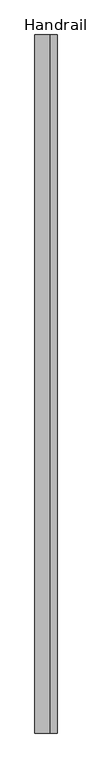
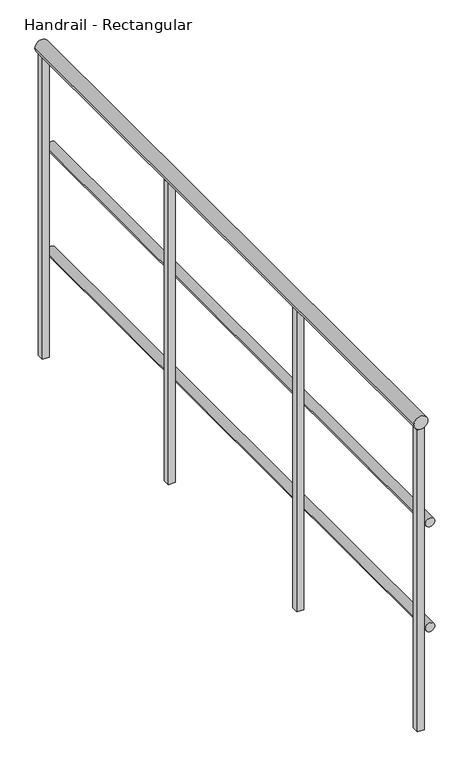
"""IFC4 building model written with IfcOpenShell, lengths in millimetres: railing geometry, Handrail - Rectangular."""

import ifcopenshell
import ifcopenshell.guid

model = None  # the IFC model being written
_history = None  # IfcOwnerHistory: only IFC2X3 demands one
_inside = {}  # id of a spatial element -> (the spatial element, [elements in it])
_under = {}  # id of a project, library or spatial element -> (it, [spatial elements below it])
_declared = {}  # id of a project -> (the project, [libraries it declares])
_typed = {}  # id of a type object -> (the type object, [elements of that type])
_made_of = {}  # id of a material, layer set ... -> (it, [elements and type objects made of it])


def new_model(schema):
    """Start an empty IFC model of exactly this schema.

    Asked for "IFC4X3", IfcOpenShell would pick the latest addendum, in which some entities
    have other attributes; the version numbers below select the first issue.
    IFC2X3 requires an IfcOwnerHistory on every rooted entity: one is made here for all.
    """
    global model, _history
    if schema == "IFC4X3":
        model = ifcopenshell.file(schema_version=(4, 3, 0, 0))
    else:
        model = ifcopenshell.file(schema=schema)
    _inside.clear()
    _under.clear()
    _declared.clear()
    _typed.clear()
    _made_of.clear()
    _history = None
    if model.schema == "IFC2X3":
        org = make("IfcOrganization", Name="unknown")
        user = make(
            "IfcPersonAndOrganization",
            ThePerson=make("IfcPerson", FamilyName="unknown"),
            TheOrganization=org,
        )
        app = make(
            "IfcApplication",
            ApplicationDeveloper=org,
            Version="unknown",
            ApplicationFullName="unknown",
            ApplicationIdentifier="unknown",
        )
        _history = make(
            "IfcOwnerHistory",
            OwningUser=user,
            OwningApplication=app,
            ChangeAction="ADDED",
            CreationDate=0,
        )
    return model


def make(cls, **values):
    """One entity of the class cls with the attributes given. An attribute that is None is left unset."""
    return model.create_entity(
        cls, **{name: value for name, value in values.items() if value is not None}
    )


def rooted(cls, **values):
    """An entity with a GlobalId (a new one), such as an element, a storey or a relation."""
    return make(cls, GlobalId=ifcopenshell.guid.new(), OwnerHistory=_history, **values)


def si_unit(unit_type, name, prefix=None):
    """IfcSIUnit, for example si_unit("LENGTHUNIT", "METRE", prefix="MILLI")."""
    return make("IfcSIUnit", UnitType=unit_type, Prefix=prefix, Name=name)


def assignment(units):
    """IfcUnitAssignment: the units of a project."""
    return None if units is None else make("IfcUnitAssignment", Units=units)


def point(xyz):
    """IfcCartesianPoint."""
    return None if xyz is None else make("IfcCartesianPoint", Coordinates=xyz)


def direction(xyz):
    """IfcDirection."""
    return None if xyz is None else make("IfcDirection", DirectionRatios=xyz)


def frame(location, z_axis=None, x_axis=None):
    """IfcAxis2Placement3D, a coordinate frame: its origin and axes. An axis left out is left unset."""
    return make(
        "IfcAxis2Placement3D",
        Location=point(location),
        Axis=direction(z_axis),
        RefDirection=direction(x_axis),
    )


def frame_2d(location, x_axis=None):
    """IfcAxis2Placement2D, a coordinate frame in the plane: its origin and x axis."""
    return make(
        "IfcAxis2Placement2D", Location=point(location), RefDirection=direction(x_axis)
    )


def origin():
    """The frame at (0, 0, 0) with its axes left unset."""
    return frame((0.0, 0.0, 0.0))


def place(relative_to, where):
    """IfcLocalPlacement: puts the frame where relative to a parent placement (None: the world)."""
    return make(
        "IfcLocalPlacement", PlacementRelTo=relative_to, RelativePlacement=where
    )


def context(
    kind, dimensions, precision=None, world=None, true_north=None, identifier=None
):
    """IfcGeometricRepresentationContext, for example the 3D "Model" context."""
    return make(
        "IfcGeometricRepresentationContext",
        ContextIdentifier=identifier,
        ContextType=kind,
        CoordinateSpaceDimension=dimensions,
        Precision=precision,
        WorldCoordinateSystem=world,
        TrueNorth=true_north,
    )


def project(units=None, contexts=None):
    """IfcProject with its units and contexts."""
    return rooted(
        "IfcProject",
        Name="project",
        RepresentationContexts=contexts,
        UnitsInContext=assignment(units),
    )


def spatial(cls, under=None, at=None, **own):
    """A site, building, storey or space (cls), placed at a placement, below another one or the project."""
    s = rooted(cls, ObjectPlacement=at, **own)
    if under is not None:
        _under.setdefault(under.id(), (under, []))[1].append(s)
    return s


def polyline(points):
    """IfcPolyline through the points."""
    return make("IfcPolyline", Points=[point(p) for p in points])


def circle_curve(where, radius):
    """IfcCircle in the frame where."""
    return make("IfcCircle", Position=where, Radius=radius)


def trimmed(basis, trim1, trim2, sense, master):
    """IfcTrimmedCurve: the piece of a basis curve between two trims."""
    return make(
        "IfcTrimmedCurve",
        BasisCurve=basis,
        Trim1=trim1,
        Trim2=trim2,
        SenseAgreement=sense,
        MasterRepresentation=master,
    )


def segment(curve, same_sense, transition):
    """IfcCompositeCurveSegment."""
    return make(
        "IfcCompositeCurveSegment",
        Transition=transition,
        SameSense=same_sense,
        ParentCurve=curve,
    )


def composite_curve(segments, self_intersect=None):
    """IfcCompositeCurve: segments joined end to end."""
    return make("IfcCompositeCurve", Segments=segments, SelfIntersect=self_intersect)


def outline(outer, holes=None, kind="AREA"):
    """IfcArbitraryClosedProfileDef: a profile drawn as a closed curve; with holes, ...WithVoids."""
    if holes is None:
        return make("IfcArbitraryClosedProfileDef", ProfileType=kind, OuterCurve=outer)
    return make(
        "IfcArbitraryProfileDefWithVoids",
        ProfileType=kind,
        OuterCurve=outer,
        InnerCurves=holes,
    )


def extrude(swept, where, along, depth):
    """IfcExtrudedAreaSolid: the profile swept, set in the frame where, extruded along a direction by depth."""
    return make(
        "IfcExtrudedAreaSolid",
        SweptArea=swept,
        Position=where,
        ExtrudedDirection=direction(along),
        Depth=depth,
    )


def shape(context_of_items, identifier, shape_type, items):
    """IfcShapeRepresentation: the items that make up one representation, for example the "Body"."""
    return make(
        "IfcShapeRepresentation",
        ContextOfItems=context_of_items,
        RepresentationIdentifier=identifier,
        RepresentationType=shape_type,
        Items=items,
    )


def source(mapping_origin, context_of_items, identifier, shape_type, items):
    """IfcRepresentationMap: a shape defined once, which mapped items show again and again."""
    return make(
        "IfcRepresentationMap",
        MappingOrigin=mapping_origin,
        MappedRepresentation=shape(context_of_items, identifier, shape_type, items),
    )


def transform(
    local_origin,
    x_axis=None,
    y_axis=None,
    z_axis=None,
    scale=None,
    scale2=None,
    scale3=None,
    uniform=True,
):
    """IfcCartesianTransformationOperator3D, or its non-uniform kind. x_axis, y_axis, z_axis: its Axis1, 2, 3."""
    if uniform:
        return make(
            "IfcCartesianTransformationOperator3D",
            Axis1=direction(x_axis),
            Axis2=direction(y_axis),
            LocalOrigin=point(local_origin),
            Scale=scale,
            Axis3=direction(z_axis),
        )
    return make(
        "IfcCartesianTransformationOperator3DnonUniform",
        Axis1=direction(x_axis),
        Axis2=direction(y_axis),
        LocalOrigin=point(local_origin),
        Scale=scale,
        Axis3=direction(z_axis),
        Scale2=scale2,
        Scale3=scale3,
    )


def mapped(mapping_source, mapping_target):
    """IfcMappedItem: shows the shape of a source again, moved by a transform."""
    return make(
        "IfcMappedItem", MappingSource=mapping_source, MappingTarget=mapping_target
    )


def made_of(thing, what):
    """Note that an element or type object is made of a material, layer set ...; save() writes the relation."""
    if what is not None:
        _made_of.setdefault(what.id(), (what, []))[1].append(thing)
    return thing


def element(
    cls,
    number,
    at=None,
    inside=None,
    cuts=None,
    type_object=None,
    material=None,
    context=None,
    identifier="Body",
    shape_type=None,
    held_by="IfcProductDefinitionShape",
    body=None,
    shapes=None,
    **own,
):
    """One element of the class cls, such as IfcWall. Its Tag is "e" and its number.

    at: its placement. inside: the storey or other place that contains it. cuts: it is an
    opening in that element (IfcRelVoidsElement). A single representation is given by context,
    identifier, shape_type and body (its items); several are given by shapes. held_by: the class
    of the entity that holds the representations. save() writes the other relations.
    """
    e = rooted(cls, Tag="e%d" % number, ObjectPlacement=at, **own)
    if body is not None:
        shapes = [shape(context, identifier, shape_type, body)]
    if shapes is not None:
        e.Representation = make(held_by, Representations=shapes)
    if inside is not None:
        _inside.setdefault(inside.id(), (inside, []))[1].append(e)
    if cuts is not None:
        rooted(
            "IfcRelVoidsElement", RelatingBuildingElement=cuts, RelatedOpeningElement=e
        )
    if type_object is not None:
        _typed.setdefault(type_object.id(), (type_object, []))[1].append(e)
    return made_of(e, material)


def aggregate(whole, parts):
    """IfcRelAggregates: a whole, such as a stair, and the parts it consists of."""
    return rooted("IfcRelAggregates", RelatingObject=whole, RelatedObjects=parts)


def save(model, path):
    """Write the relations noted so far, then the file.

    IfcRelAggregates (storeys below a building ...), IfcRelContainedInSpatialStructure (elements
    in a storey), IfcRelDefinesByType, IfcRelAssociatesMaterial and IfcRelDeclares: one each for
    every whole, place, type object, material and project.
    """
    for whole, parts in _under.values():
        aggregate(whole, parts)
    for where, things in _inside.values():
        rooted(
            "IfcRelContainedInSpatialStructure",
            RelatedElements=things,
            RelatingStructure=where,
        )
    for kind, things in _typed.values():
        rooted("IfcRelDefinesByType", RelatedObjects=things, RelatingType=kind)
    for what, things in _made_of.values():
        rooted("IfcRelAssociatesMaterial", RelatedObjects=things, RelatingMaterial=what)
    for by, libraries in _declared.values():
        rooted("IfcRelDeclares", RelatingContext=by, RelatedDefinitions=libraries)
    model.write(path)


def handrail_rectangular_6d217318(model_context):
    return source(origin(), model_context, "Body", "SweptSolid", [
        extrude(outline(composite_curve([segment(trimmed(circle_curve(frame_2d((9740.9, 2322.5410437)), 12.7), [point((9740.9, 2335.2410437))], [point((9740.9, 2309.8410437))], False, "CARTESIAN"), True, "CONTINUOUS"), segment(trimmed(circle_curve(frame_2d((9740.9, 2322.5410437)), 12.7), [point((9740.9, 2309.8410437))], [point((9740.9, 2335.2410437))], False, "CARTESIAN"), True, "CONTINUOUS")], self_intersect=False)), frame((0.0, 8414.2316867, 0.0), z_axis=(0.0, 1.0, 0.0), x_axis=(0.0, 0.0, 1.0)), (0.0, 0.0, 1.0), 1803.4),
        extrude(outline(composite_curve([segment(trimmed(circle_curve(frame_2d((9436.1, 2322.5410437)), 12.7), [point((9436.1, 2335.2410437))], [point((9436.1, 2309.8410437))], False, "CARTESIAN"), True, "CONTINUOUS"), segment(trimmed(circle_curve(frame_2d((9436.1, 2322.5410437)), 12.7), [point((9436.1, 2309.8410437))], [point((9436.1, 2335.2410437))], False, "CARTESIAN"), True, "CONTINUOUS")], self_intersect=False)), frame((0.0, 8414.2316867, 0.0), z_axis=(0.0, 1.0, 0.0), x_axis=(0.0, 0.0, 1.0)), (0.0, 0.0, 1.0), 1803.4),
        extrude(outline(composite_curve([segment(trimmed(circle_curve(frame_2d((10039.35, 2297.1410437)), 19.05), [point((10039.35, 2316.1910437))], [point((10039.35, 2278.0910437))], False, "CARTESIAN"), True, "CONTINUOUS"), segment(trimmed(circle_curve(frame_2d((10039.35, 2297.1410437)), 19.05), [point((10039.35, 2278.0910437))], [point((10039.35, 2316.1910437))], False, "CARTESIAN"), True, "CONTINUOUS")], self_intersect=False)), frame((0.0, 8414.2316867, 0.0), z_axis=(0.0, 1.0, 0.0), x_axis=(0.0, 0.0, 1.0)), (0.0, 0.0, 1.0), 1803.4),
        extrude(outline(polyline([(2287.6160437, 9007.9566867), (2306.6660437, 9007.9566867), (2306.6660437, 8988.9066867), (2287.6160437, 8988.9066867), (2287.6160437, 9007.9566867)])), frame((0.0, 0.0, 9144.0), z_axis=(0.0, 0.0, 1.0), x_axis=(1.0, 0.0, 0.0)), (0.0, 0.0, 1.0), 876.3),
        extrude(outline(polyline([(2287.6160437, 9617.5566867), (2306.6660437, 9617.5566867), (2306.6660437, 9598.5066867), (2287.6160437, 9598.5066867), (2287.6160437, 9617.5566867)])), frame((0.0, 0.0, 9144.0), z_axis=(0.0, 0.0, 1.0), x_axis=(1.0, 0.0, 0.0)), (0.0, 0.0, 1.0), 876.3),
        extrude(outline(polyline([(2287.6160437, 8433.2816867), (2306.6660437, 8433.2816867), (2306.6660437, 8414.2316867), (2287.6160437, 8414.2316867), (2287.6160437, 8433.2816867)])), frame((0.0, 0.0, 9144.0), z_axis=(0.0, 0.0, 1.0), x_axis=(1.0, 0.0, 0.0)), (0.0, 0.0, 1.0), 876.3),
        extrude(outline(polyline([(2287.6160437, 10217.6316867), (2306.6660437, 10217.6316867), (2306.6660437, 10198.5816867), (2287.6160437, 10198.5816867), (2287.6160437, 10217.6316867)])), frame((0.0, 0.0, 9144.0), z_axis=(0.0, 0.0, 1.0), x_axis=(1.0, 0.0, 0.0)), (0.0, 0.0, 1.0), 876.3),
    ])


if __name__ == "__main__":
    model = new_model("IFC4")
    model_context = context("Model", 3, world=origin())
    ifc_project = project(units=[si_unit("LENGTHUNIT", "METRE", prefix="MILLI")], contexts=[model_context])
    site = spatial("IfcSite", under=ifc_project)
    building = spatial("IfcBuilding", under=site)
    placement = place(None, origin())
    handrail_rectangular_shape = handrail_rectangular_6d217318(model_context)
    element("IfcRailing", 1, ObjectType="Handrail - Rectangular", at=placement, inside=building, context=model_context, shape_type="MappedRepresentation", body=[
        mapped(handrail_rectangular_shape, transform((0.0, 0.0, 0.0), x_axis=(1.0, 0.0, 0.0), y_axis=(0.0, 1.0, 0.0), z_axis=(0.0, 0.0, 1.0))),
    ])
    save(model, "model.ifc")
